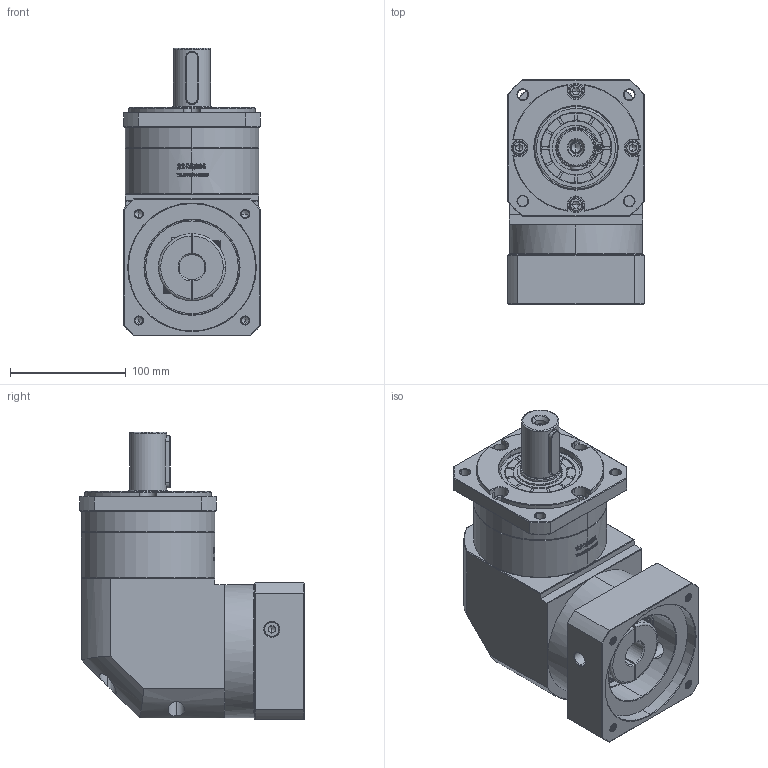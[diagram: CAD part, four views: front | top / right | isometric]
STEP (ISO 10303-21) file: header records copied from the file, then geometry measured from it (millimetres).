
FILE_DESCRIPTION (( 'STEP AP214' ), '1' );
FILE_NAME ('ZFR120A-D32-L1-22-110-130-M8.step', '2023-03-08T08:24:03', ( '' ), ( '' ), 'SwSTEP 2.0', 'SolidWorks 2016', '' );
FILE_SCHEMA (( 'AUTOMOTIVE_DESIGN' ));
Length unit declared in the file: millimetre
Products named in the file (1): ZFR120A-D32-L1-22-110-130-M8
Bounding box: 118 x 193.9 x 248 mm (x, y, z)
Volume: 2887490.6 mm3; surface area: 245448.7 mm2
Topology: 6 solids, 6 shells, 2871 faces, 7660 edges, 4934 vertices
Faces by surface type: plane 1484, bspline 607, cylinder 434, cone 338, torus 8
Entity records: 158046 total; most frequent: CARTESIAN_POINT 60781, ORIENTED_EDGE 15260, DIRECTION 11091, EDGE_CURVE 7630, VERTEX_POINT 4934, VECTOR 4749, LINE 4749, AXIS2_PLACEMENT_3D 3171
